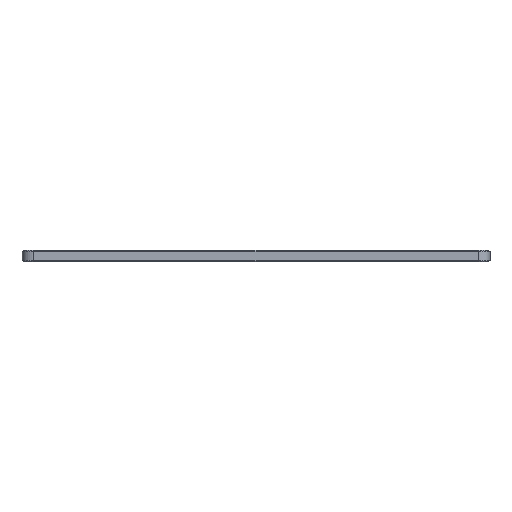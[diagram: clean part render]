
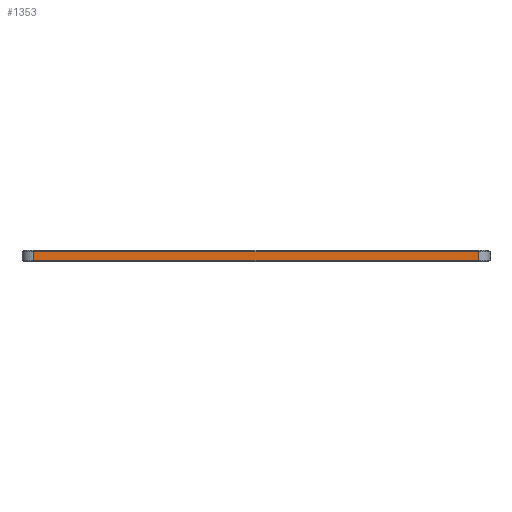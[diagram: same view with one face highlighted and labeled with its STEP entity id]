
A CAD part, front view. The second image highlights one B-rep face of the part: STEP entity #1353.
In plain terms, the highlighted planar face has unit normal (0, -1, 0).
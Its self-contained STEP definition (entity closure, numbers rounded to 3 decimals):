
#1 = VECTOR ( 'NONE', #126, 1000. ) ;
#3 = CARTESIAN_POINT ( 'NONE',  ( -10.42, -38.241, 25.691 ) ) ;
#17 = ORIENTED_EDGE ( 'NONE', *, *, #1193, .T. ) ;
#30 = LINE ( 'NONE', #347, #1927 ) ;
#49 = DIRECTION ( 'NONE',  ( 1., 0., 0. ) ) ;
#53 = DIRECTION ( 'NONE',  ( -1., 0., 0. ) ) ;
#95 = CARTESIAN_POINT ( 'NONE',  ( -10.42, -38.241, 22.991 ) ) ;
#126 = DIRECTION ( 'NONE',  ( 0., 0., -1. ) ) ;
#134 = LINE ( 'NONE', #1107, #1 ) ;
#265 = CARTESIAN_POINT ( 'NONE',  ( -10.42, -38.241, 25.691 ) ) ;
#292 = ORIENTED_EDGE ( 'NONE', *, *, #1485, .T. ) ;
#347 = CARTESIAN_POINT ( 'NONE',  ( -10.42, -38.241, 22.991 ) ) ;
#363 = LINE ( 'NONE', #697, #504 ) ;
#504 = VECTOR ( 'NONE', #53, 1000. ) ;
#609 = ORIENTED_EDGE ( 'NONE', *, *, #924, .F. ) ;
#697 = CARTESIAN_POINT ( 'NONE',  ( -124.42, -38.241, 25.391 ) ) ;
#761 = EDGE_LOOP ( 'NONE', ( #17, #292, #609, #1263 ) ) ;
#911 = VECTOR ( 'NONE', #913, 1000. ) ;
#913 = DIRECTION ( 'NONE',  ( 0., 0., -1. ) ) ;
#924 = EDGE_CURVE ( 'NONE', #1461, #1865, #1232, .T. ) ;
#1050 = CARTESIAN_POINT ( 'NONE',  ( -124.42, -38.241, 22.991 ) ) ;
#1107 = CARTESIAN_POINT ( 'NONE',  ( -124.42, -38.241, 25.691 ) ) ;
#1119 = VERTEX_POINT ( 'NONE', #1050 ) ;
#1193 = EDGE_CURVE ( 'NONE', #1680, #1119, #134, .T. ) ;
#1232 = LINE ( 'NONE', #265, #911 ) ;
#1263 = ORIENTED_EDGE ( 'NONE', *, *, #1617, .T. ) ;
#1268 = DIRECTION ( 'NONE',  ( 0., -1., 0. ) ) ;
#1353 = ADVANCED_FACE ( 'NONE', ( #1957 ), #1754, .T. ) ;
#1461 = VERTEX_POINT ( 'NONE', #1812 ) ;
#1485 = EDGE_CURVE ( 'NONE', #1119, #1865, #30, .T. ) ;
#1487 = CARTESIAN_POINT ( 'NONE',  ( -124.42, -38.241, 25.391 ) ) ;
#1617 = EDGE_CURVE ( 'NONE', #1461, #1680, #363, .T. ) ;
#1680 = VERTEX_POINT ( 'NONE', #1487 ) ;
#1754 = PLANE ( 'NONE',  #2028 ) ;
#1773 = DIRECTION ( 'NONE',  ( 0., 0., -1. ) ) ;
#1812 = CARTESIAN_POINT ( 'NONE',  ( -10.42, -38.241, 25.391 ) ) ;
#1865 = VERTEX_POINT ( 'NONE', #95 ) ;
#1927 = VECTOR ( 'NONE', #49, 1000. ) ;
#1957 = FACE_OUTER_BOUND ( 'NONE', #761, .T. ) ;
#2028 = AXIS2_PLACEMENT_3D ( 'NONE', #3, #1268, #1773 ) ;
